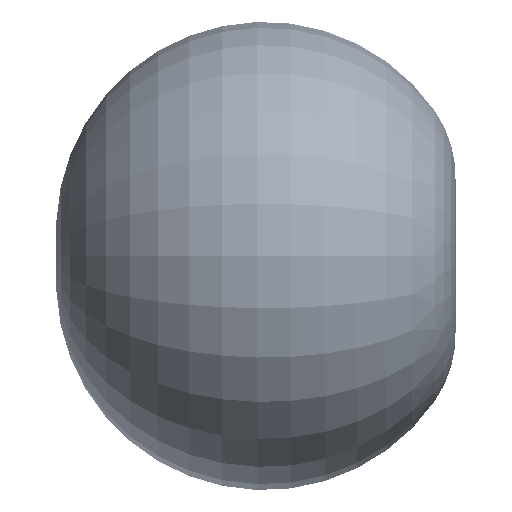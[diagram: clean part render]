
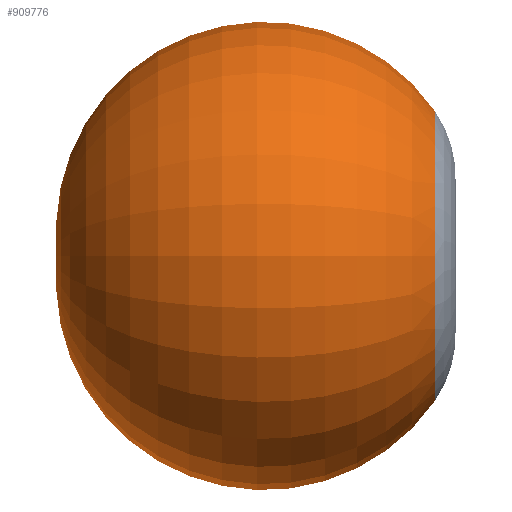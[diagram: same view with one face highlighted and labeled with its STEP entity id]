
A CAD part, left-side view. The second image highlights one B-rep face of the part: STEP entity #909776.
In plain terms, the highlighted toroidal (fillet/blend) face has major radius 250 mm and minor radius 1987.87 mm.
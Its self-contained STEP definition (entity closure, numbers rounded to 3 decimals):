
#34284 = EDGE_CURVE ( 'NONE', #1043147, #1039841, #864948, .T. ) ;
#34565 = EDGE_CURVE ( 'NONE', #1043147, #1040733, #865785, .T. ) ;
#44344 = EDGE_CURVE ( 'NONE', #1039841, #1040733, #70161, .T. ) ;
#70161 = CIRCLE ( 'NONE', #70208, 1987.874 ) ;
#70208 = AXIS2_PLACEMENT_3D ( 'NONE', #306805, #306808, #306811 ) ;
#165516 = CARTESIAN_POINT ( 'NONE',  ( 0., -971.371, 0. ) ) ;
#165525 = DIRECTION ( 'NONE',  ( 0., 1., 0. ) ) ;
#165533 = DIRECTION ( 'NONE',  ( 0., 0., 1. ) ) ;
#306805 = CARTESIAN_POINT ( 'NONE',  ( 0., 657., 250. ) ) ;
#306808 = DIRECTION ( 'NONE',  ( -1., 0., 0. ) ) ;
#306811 = DIRECTION ( 'NONE',  ( 0., 0., 1. ) ) ;
#328357 = CARTESIAN_POINT ( 'NONE',  ( 0., -971.371, 1390.198 ) ) ;
#328870 = CARTESIAN_POINT ( 'NONE',  ( 0., 2629.091, 0. ) ) ;
#330536 = CARTESIAN_POINT ( 'NONE',  ( 0., -971.371, -1390.198 ) ) ;
#385169 = ORIENTED_EDGE ( 'NONE', *, *, #44344, .T. ) ;
#385186 = ORIENTED_EDGE ( 'NONE', *, *, #34284, .T. ) ;
#385203 = ORIENTED_EDGE ( 'NONE', *, *, #34565, .F. ) ;
#419353 = TOROIDAL_SURFACE ( 'NONE', #419370, 250., 1987.874 ) ;
#419370 = AXIS2_PLACEMENT_3D ( 'NONE', #746641, #746620, #746690 ) ;
#746620 = DIRECTION ( 'NONE',  ( 0., 1., 0. ) ) ;
#746641 = CARTESIAN_POINT ( 'NONE',  ( 0., 657., 0. ) ) ;
#746651 = FACE_OUTER_BOUND ( 'NONE', #799710, .T. ) ;
#746690 = DIRECTION ( 'NONE',  ( 0., 0., 1. ) ) ;
#799710 = EDGE_LOOP ( 'NONE', ( #385203, #385186, #385169 ) ) ;
#864948 = CIRCLE ( 'NONE', #864995, 1390.198 ) ;
#864995 = AXIS2_PLACEMENT_3D ( 'NONE', #165516, #165525, #165533 ) ;
#865785 = CIRCLE ( 'NONE', #865859, 1987.874 ) ;
#865859 = AXIS2_PLACEMENT_3D ( 'NONE', #1031220, #1031227, #1031236 ) ;
#909776 = ADVANCED_FACE ( 'NONE', ( #746651 ), #419353, .T. ) ;
#1031220 = CARTESIAN_POINT ( 'NONE',  ( 0., 657., -250. ) ) ;
#1031227 = DIRECTION ( 'NONE',  ( 1., 0., 0. ) ) ;
#1031236 = DIRECTION ( 'NONE',  ( 0., 0., -1. ) ) ;
#1039841 = VERTEX_POINT ( 'NONE', #328357 ) ;
#1040733 = VERTEX_POINT ( 'NONE', #328870 ) ;
#1043147 = VERTEX_POINT ( 'NONE', #330536 ) ;
